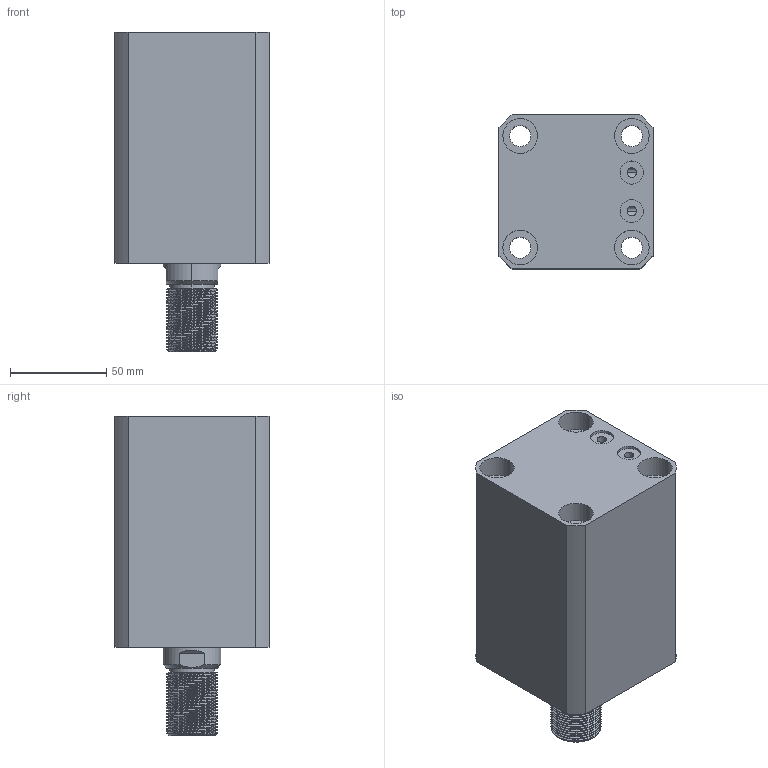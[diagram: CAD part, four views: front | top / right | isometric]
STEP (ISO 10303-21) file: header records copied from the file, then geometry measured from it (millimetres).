
FILE_DESCRIPTION (( 'STEP AP203' ), '1' );
FILE_NAME ('CHTB-SDMA50-60W.STEP', '2018-05-19T06:08:34', ( '' ), ( '' ), 'SwSTEP 2.0', 'SolidWorks 2015', '' );
FILE_SCHEMA (( 'CONFIG_CONTROL_DESIGN' ));
Length unit declared in the file: millimetre
Products named in the file (5): M6; CHTM-SDMA50QG; 活塞杆SDMB50-60N; 掛极SDMB50-60N; CHTB-SDMA50-60W
Assembly tree (5 placements, depth 2):
  CHTB-SDMA50-60W
    掛极SDMB50-60N
    活塞杆SDMB50-60N
    CHTM-SDMA50QG
    M6  x2
Bounding box: 80 x 80 x 166 mm (x, y, z)
Volume: 646715.3 mm3; surface area: 123898.3 mm2
Topology: 5 solids, 5 shells, 305 faces, 821 edges, 547 vertices
Faces by surface type: cylinder 175, plane 57, cone 29, bspline 28, torus 16
Entity records: 17763 total; most frequent: CARTESIAN_POINT 11022, ORIENTED_EDGE 1448, DIRECTION 1131, EDGE_CURVE 724, VERTEX_POINT 486, AXIS2_PLACEMENT_3D 455, EDGE_LOOP 312, FACE_OUTER_BOUND 270
